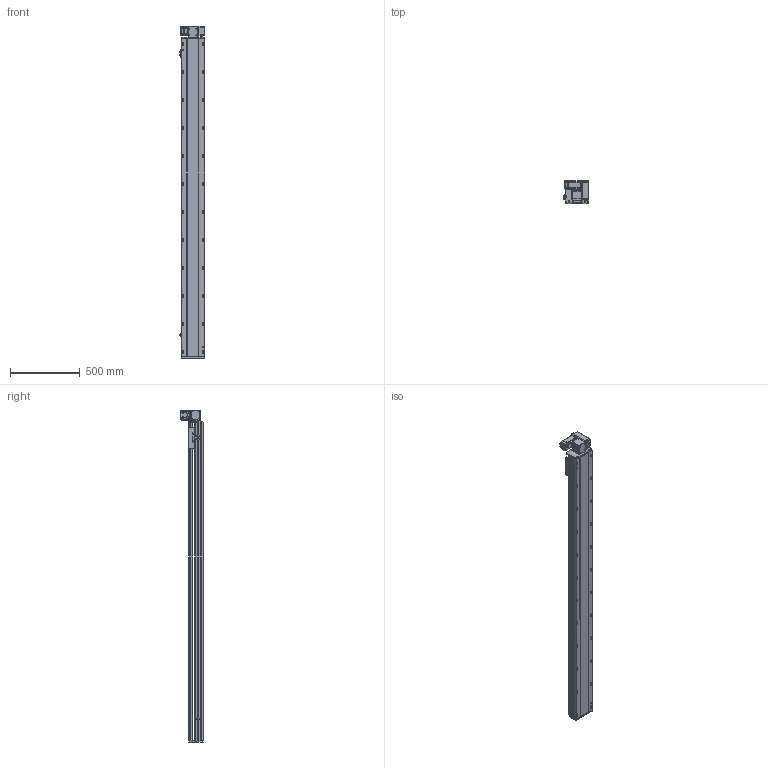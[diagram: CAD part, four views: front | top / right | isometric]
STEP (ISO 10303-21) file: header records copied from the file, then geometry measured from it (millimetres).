
FILE_DESCRIPTION (( 'STEP AP214' ), '1' );
FILE_NAME ('RTB17S-XX-2000-RW-M40-C4.STEP', '2025-12-11T09:07:37', ( '' ), ( '' ), 'SwSTEP 2.0', 'SolidWorks 2018', '' );
FILE_SCHEMA (( 'AUTOMOTIVE_DESIGN' ));
Length unit declared in the file: millimetre
Products named in the file (14): RTH13-BL-012覜茼え俋离^RTB17S-XX-XX-RW-M40-C4; RMP17S-L-014-T20--々湍釱^RTB17S-RW-々湍釱蚾饜-400W_RTB17S-XX-XX-RW-M40-C4; RTB17S-XX-2000-RW-M40-C4; RTB17S-RW-々湍釱蚾饜-400W^RTB17S-XX-XX-RW-M40-C4; RTB17S-L-007奻裔^RTB17S-XX-XX-RW-M40-C4; RTB14-L-005P--轴承塑胶压盖^RTB17S-RW-皮带座装配-400W_RTB17S-XX-XX-RW-M40-C4; 400W侜督萇儂^RTB17S-XX-XX-RW-M40-C4; RTB17S-L-001耜醱啣^RTB17S-XX-XX-RW-M40-C4; OMRON EE-SX672 传感器^RTB17S-XX-XX-RW-M40-C4; RTB14-L-018P^RTB17S-RW-々湍釱蚾饜-400W_RTB17S-XX-XX-RW-M40-C4; RTB17S-L-004佪裝蹟譫蟀諉釱^RTB17S-XX-XX-RW-M40-C4; RTB17-R-011菁釱^RTB17S-XX-XX-RW-M40-C4; RTB14-L-017P^RTB17S-RW-々湍釱蚾饜-400W_RTB17S-XX-XX-RW-M40-C4; RTB14-L-008-M20--萇儂啣^RTB17S-RW-々湍釱蚾饜-400W_RTB17S-XX-XX-RW-M40-C4
Assembly tree (16 placements, depth 3):
  RTB17S-XX-2000-RW-M40-C4
    RTB17-R-011菁釱^RTB17S-XX-XX-RW-M40-C4
    RTB17S-L-007奻裔^RTB17S-XX-XX-RW-M40-C4
    OMRON EE-SX672 传感器^RTB17S-XX-XX-RW-M40-C4  x3
    RTB17S-L-001耜醱啣^RTB17S-XX-XX-RW-M40-C4
    400W侜督萇儂^RTB17S-XX-XX-RW-M40-C4
    RTB17S-L-004佪裝蹟譫蟀諉釱^RTB17S-XX-XX-RW-M40-C4
    RTH13-BL-012覜茼え俋离^RTB17S-XX-XX-RW-M40-C4
    RTB17S-RW-々湍釱蚾饜-400W^RTB17S-XX-XX-RW-M40-C4
      RMP17S-L-014-T20--々湍釱^RTB17S-RW-々湍釱蚾饜-400W_RTB17S-XX-XX-RW-M40-C4
      RTB14-L-005P--轴承塑胶压盖^RTB17S-RW-皮带座装配-400W_RTB17S-XX-XX-RW-M40-C4
      RTB14-L-008-M20--萇儂啣^RTB17S-RW-々湍釱蚾饜-400W_RTB17S-XX-XX-RW-M40-C4
      RTB14-L-017P^RTB17S-RW-々湍釱蚾饜-400W_RTB17S-XX-XX-RW-M40-C4  x2
      RTB14-L-018P^RTB17S-RW-々湍釱蚾饜-400W_RTB17S-XX-XX-RW-M40-C4
Bounding box: 183.5 x 160.5 x 2372.5 mm (x, y, z)
Volume: 20531891.8 mm3; surface area: 2386456.9 mm2
Topology: 15 solids, 15 shells, 2285 faces, 6357 edges, 4149 vertices
Faces by surface type: plane 1078, cylinder 759, bspline 301, cone 139, torus 8
Entity records: 66473 total; most frequent: CARTESIAN_POINT 18762, ORIENTED_EDGE 9558, DIRECTION 8846, EDGE_CURVE 4779, VERTEX_POINT 3137, AXIS2_PLACEMENT_3D 3067, LINE 2712, VECTOR 2712
